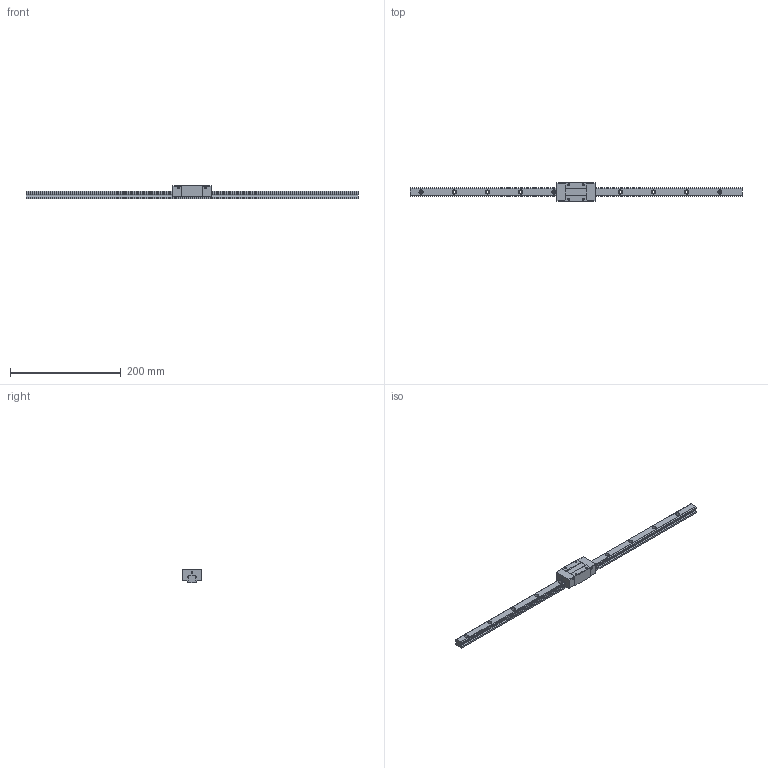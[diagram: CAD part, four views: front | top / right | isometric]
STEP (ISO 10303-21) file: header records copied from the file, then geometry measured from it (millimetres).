
FILE_DESCRIPTION (( 'STEP AP203' ), '1' );
FILE_NAME ('TRS15VN-SZ.STEP', '2024-07-11T07:30:27', ( '' ), ( '' ), 'SwSTEP 2.0', 'SolidWorks 2022', '' );
FILE_SCHEMA (( 'CONFIG_CONTROL_DESIGN' ));
Length unit declared in the file: millimetre
Products named in the file (1): TRS15VN-SZ
Bounding box: 600 x 34 x 24 mm (x, y, z)
Volume: 138923.3 mm3; surface area: 47627.1 mm2
Topology: 2 solids, 2 shells, 204 faces, 528 edges, 340 vertices
Faces by surface type: cylinder 96, plane 92, cone 16
Entity records: 6319 total; most frequent: DIRECTION 1130, CARTESIAN_POINT 1065, ORIENTED_EDGE 1040, EDGE_CURVE 520, AXIS2_PLACEMENT_3D 405, VERTEX_POINT 340, VECTOR 320, LINE 320
